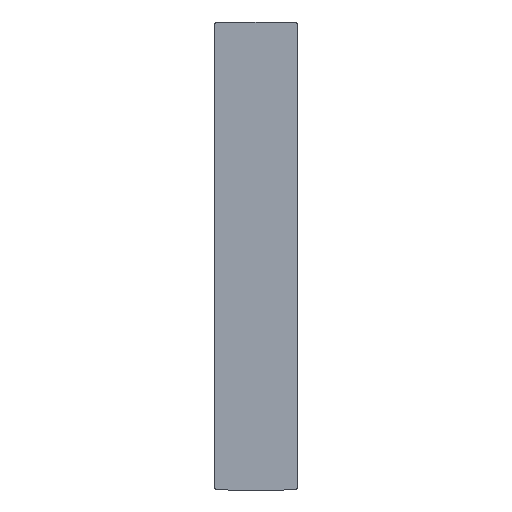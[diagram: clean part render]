
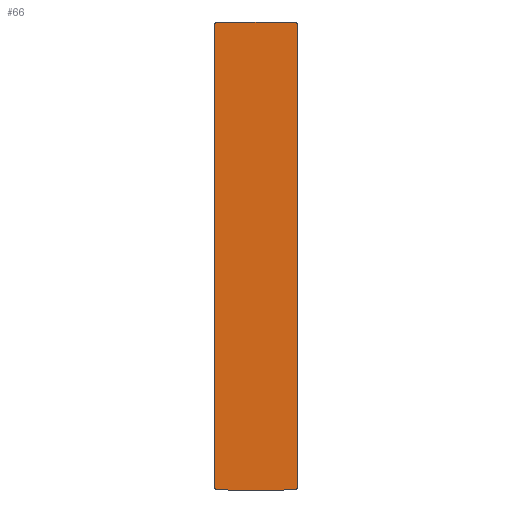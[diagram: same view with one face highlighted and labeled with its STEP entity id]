
A CAD part, left-side view. The second image highlights one B-rep face of the part: STEP entity #66.
In plain terms, the highlighted planar face has unit normal (-1, 0, 0).
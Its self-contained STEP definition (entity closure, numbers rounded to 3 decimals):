
#66 = ADVANCED_FACE( '', ( #155 ), #156, .F. );
#155 = FACE_OUTER_BOUND( '', #268, .T. );
#156 = PLANE( '', #269 );
#268 = EDGE_LOOP( '', ( #396, #397, #398, #399, #400, #401, #402, #403, #404, #405, #406, #407 ) );
#269 = AXIS2_PLACEMENT_3D( '', #408, #409, #410 );
#396 = ORIENTED_EDGE( '', *, *, #696, .F. );
#397 = ORIENTED_EDGE( '', *, *, #697, .F. );
#398 = ORIENTED_EDGE( '', *, *, #685, .F. );
#399 = ORIENTED_EDGE( '', *, *, #698, .T. );
#400 = ORIENTED_EDGE( '', *, *, #699, .F. );
#401 = ORIENTED_EDGE( '', *, *, #700, .F. );
#402 = ORIENTED_EDGE( '', *, *, #701, .T. );
#403 = ORIENTED_EDGE( '', *, *, #702, .F. );
#404 = ORIENTED_EDGE( '', *, *, #703, .F. );
#405 = ORIENTED_EDGE( '', *, *, #704, .F. );
#406 = ORIENTED_EDGE( '', *, *, #705, .F. );
#407 = ORIENTED_EDGE( '', *, *, #706, .F. );
#408 = CARTESIAN_POINT( '', ( 0., 98., 278. ) );
#409 = DIRECTION( '', ( 1., 0., 0. ) );
#410 = DIRECTION( '', ( 0., 0., -1. ) );
#685 = EDGE_CURVE( '', #814, #816, #817, .T. );
#696 = EDGE_CURVE( '', #835, #836, #837, .T. );
#697 = EDGE_CURVE( '', #816, #835, #838, .T. );
#698 = EDGE_CURVE( '', #814, #839, #840, .T. );
#699 = EDGE_CURVE( '', #841, #839, #842, .T. );
#700 = EDGE_CURVE( '', #843, #841, #844, .T. );
#701 = EDGE_CURVE( '', #843, #845, #846, .T. );
#702 = EDGE_CURVE( '', #847, #845, #848, .T. );
#703 = EDGE_CURVE( '', #849, #847, #850, .T. );
#704 = EDGE_CURVE( '', #851, #849, #852, .T. );
#705 = EDGE_CURVE( '', #853, #851, #854, .T. );
#706 = EDGE_CURVE( '', #836, #853, #855, .T. );
#814 = VERTEX_POINT( '', #1001 );
#816 = VERTEX_POINT( '', #1004 );
#817 = CIRCLE( '', #1005, 2.3 );
#835 = VERTEX_POINT( '', #1030 );
#836 = VERTEX_POINT( '', #1031 );
#837 = LINE( '', #1032, #1033 );
#838 = CIRCLE( '', #1034, 147.046 );
#839 = VERTEX_POINT( '', #1035 );
#840 = LINE( '', #1036, #1037 );
#841 = VERTEX_POINT( '', #1038 );
#842 = CIRCLE( '', #1039, 2.3 );
#843 = VERTEX_POINT( '', #1040 );
#844 = CIRCLE( '', #1041, 147.046 );
#845 = VERTEX_POINT( '', #1042 );
#846 = LINE( '', #1043, #1044 );
#847 = VERTEX_POINT( '', #1045 );
#848 = CIRCLE( '', #1046, 147.046 );
#849 = VERTEX_POINT( '', #1047 );
#850 = CIRCLE( '', #1048, 2.3 );
#851 = VERTEX_POINT( '', #1049 );
#852 = LINE( '', #1050, #1051 );
#853 = VERTEX_POINT( '', #1052 );
#854 = CIRCLE( '', #1053, 2.3 );
#855 = CIRCLE( '', #1054, 147.046 );
#1001 = CARTESIAN_POINT( '', ( 0., 98., 274.977 ) );
#1004 = CARTESIAN_POINT( '', ( 0., 95.93, 277.265 ) );
#1005 = AXIS2_PLACEMENT_3D( '', #1236, #1237, #1238 );
#1030 = CARTESIAN_POINT( '', ( 0., 81.246, 278. ) );
#1031 = CARTESIAN_POINT( '', ( 0., 16.754, 278. ) );
#1032 = CARTESIAN_POINT( '', ( 0., 98., 278. ) );
#1033 = VECTOR( '', #1249, 1000. );
#1034 = AXIS2_PLACEMENT_3D( '', #1250, #1251, #1252 );
#1035 = CARTESIAN_POINT( '', ( 0., 98., -274.977 ) );
#1036 = CARTESIAN_POINT( '', ( 0., 98., 278. ) );
#1037 = VECTOR( '', #1253, 1000. );
#1038 = CARTESIAN_POINT( '', ( 0., 95.93, -277.265 ) );
#1039 = AXIS2_PLACEMENT_3D( '', #1254, #1255, #1256 );
#1040 = CARTESIAN_POINT( '', ( 0., 81.246, -278. ) );
#1041 = AXIS2_PLACEMENT_3D( '', #1257, #1258, #1259 );
#1042 = CARTESIAN_POINT( '', ( 0., 16.754, -278. ) );
#1043 = CARTESIAN_POINT( '', ( 0., 98., -278. ) );
#1044 = VECTOR( '', #1260, 1000. );
#1045 = CARTESIAN_POINT( '', ( 0., 2.07, -277.265 ) );
#1046 = AXIS2_PLACEMENT_3D( '', #1261, #1262, #1263 );
#1047 = CARTESIAN_POINT( '', ( 0., 0., -274.977 ) );
#1048 = AXIS2_PLACEMENT_3D( '', #1264, #1265, #1266 );
#1049 = CARTESIAN_POINT( '', ( 0., 0., 274.977 ) );
#1050 = CARTESIAN_POINT( '', ( 0., 0., 278. ) );
#1051 = VECTOR( '', #1267, 1000. );
#1052 = CARTESIAN_POINT( '', ( 0., 2.07, 277.265 ) );
#1053 = AXIS2_PLACEMENT_3D( '', #1268, #1269, #1270 );
#1054 = AXIS2_PLACEMENT_3D( '', #1271, #1272, #1273 );
#1236 = CARTESIAN_POINT( '', ( 0., 95.7, 274.977 ) );
#1237 = DIRECTION( '', ( 1., 0., 0. ) );
#1238 = DIRECTION( '', ( 0., 0., -1. ) );
#1249 = DIRECTION( '', ( 0., -1., 0. ) );
#1250 = CARTESIAN_POINT( '', ( 0., 81.246, 130.954 ) );
#1251 = DIRECTION( '', ( 1., 0., 0. ) );
#1252 = DIRECTION( '', ( 0., 0., -1. ) );
#1253 = DIRECTION( '', ( 0., 0., -1. ) );
#1254 = CARTESIAN_POINT( '', ( 0., 95.7, -274.977 ) );
#1255 = DIRECTION( '', ( 1., 0., 0. ) );
#1256 = DIRECTION( '', ( 0., 0., -1. ) );
#1257 = CARTESIAN_POINT( '', ( 0., 81.246, -130.954 ) );
#1258 = DIRECTION( '', ( 1., 0., 0. ) );
#1259 = DIRECTION( '', ( 0., 0., -1. ) );
#1260 = DIRECTION( '', ( 0., -1., 0. ) );
#1261 = CARTESIAN_POINT( '', ( 0., 16.754, -130.954 ) );
#1262 = DIRECTION( '', ( 1., 0., 0. ) );
#1263 = DIRECTION( '', ( 0., 0., -1. ) );
#1264 = CARTESIAN_POINT( '', ( 0., 2.3, -274.977 ) );
#1265 = DIRECTION( '', ( 1., 0., 0. ) );
#1266 = DIRECTION( '', ( 0., 0., -1. ) );
#1267 = DIRECTION( '', ( 0., 0., -1. ) );
#1268 = CARTESIAN_POINT( '', ( 0., 2.3, 274.977 ) );
#1269 = DIRECTION( '', ( 1., 0., 0. ) );
#1270 = DIRECTION( '', ( 0., 0., -1. ) );
#1271 = CARTESIAN_POINT( '', ( 0., 16.754, 130.954 ) );
#1272 = DIRECTION( '', ( 1., 0., 0. ) );
#1273 = DIRECTION( '', ( 0., 0., -1. ) );
